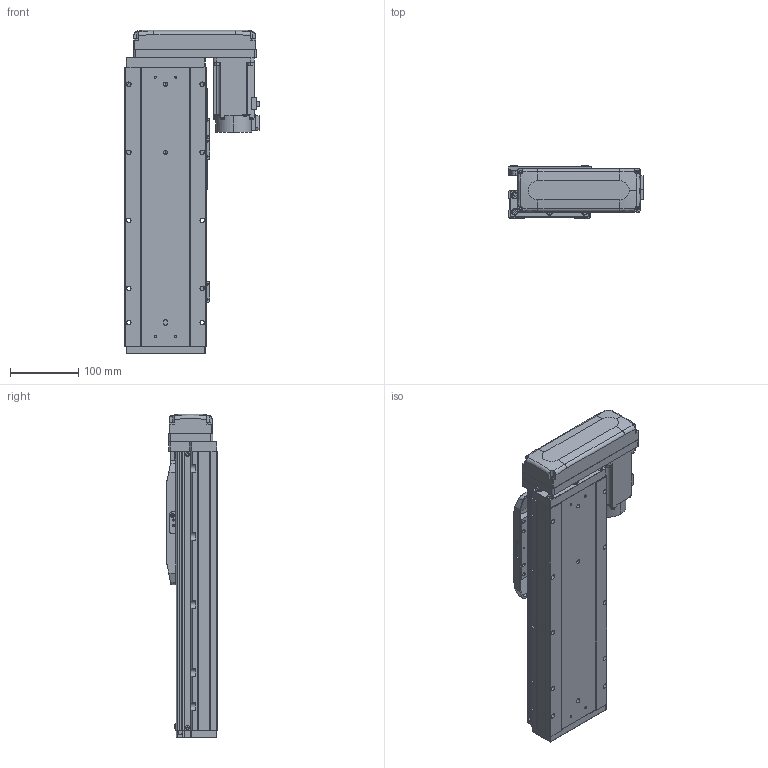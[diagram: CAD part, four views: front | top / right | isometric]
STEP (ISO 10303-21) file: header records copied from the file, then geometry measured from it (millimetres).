
FILE_DESCRIPTION (( 'STEP AP203' ), '1' );
FILE_NAME ('GTH12-200-BL-M40-C4.step', '2023-07-04T10:39:53', ( '微软用户' ), ( '微软中国' ), 'SwSTEP 2.0', 'SolidWorks 2020', '' );
FILE_SCHEMA (( 'CONFIG_CONTROL_DESIGN' ));
Length unit declared in the file: millimetre
Products named in the file (18): hg-kn43j_-s100_; GTH120-003; GTH80-022; CTHA86-033_M40B; GBT 70.3-M3℅8; GTH120-006; GTH80-028; GTH120-027-1_GTH120-027-2; GTH120-004; GTH50-023; GTH12-200-BL-M40-C4; GTH120-013; GTH50-024; GBT 70.1-M3℅6; GBT96.1-2002 3×0.8; GBT 70.1-M5×16; BTH-M3X5X6; GTH120-001_200
Assembly tree (59 placements, depth 2):
  GTH12-200-BL-M40-C4
    GTH120-001_200
    GTH120-003
    GTH120-006
    GTH120-004
    GTH120-013
    GBT 70.1-M3℅6  x14
    GBT 70.1-M5×16  x10
    GBT 70.3-M3℅8  x4
    GTH80-022
    GTH80-028  x2
    GTH50-023  x3
    GTH50-024  x3
    GBT96.1-2002 3×0.8  x6
    BTH-M3X5X6  x8
    hg-kn43j_-s100_
    CTHA86-033_M40B
    GTH120-027-1_GTH120-027-2
Bounding box: 199.8 x 76 x 475.5 mm (x, y, z)
Volume: 3952792.3 mm3; surface area: 447181.8 mm2
Topology: 61 solids, 61 shells, 2359 faces, 5472 edges, 3355 vertices
Faces by surface type: plane 1230, cylinder 665, cone 276, torus 174, sphere 8, bspline 6
Entity records: 42946 total; most frequent: CARTESIAN_POINT 7272, DIRECTION 7068, ORIENTED_EDGE 6554, EDGE_CURVE 3277, AXIS2_PLACEMENT_3D 2472, VECTOR 2124, LINE 2124, VERTEX_POINT 2076
